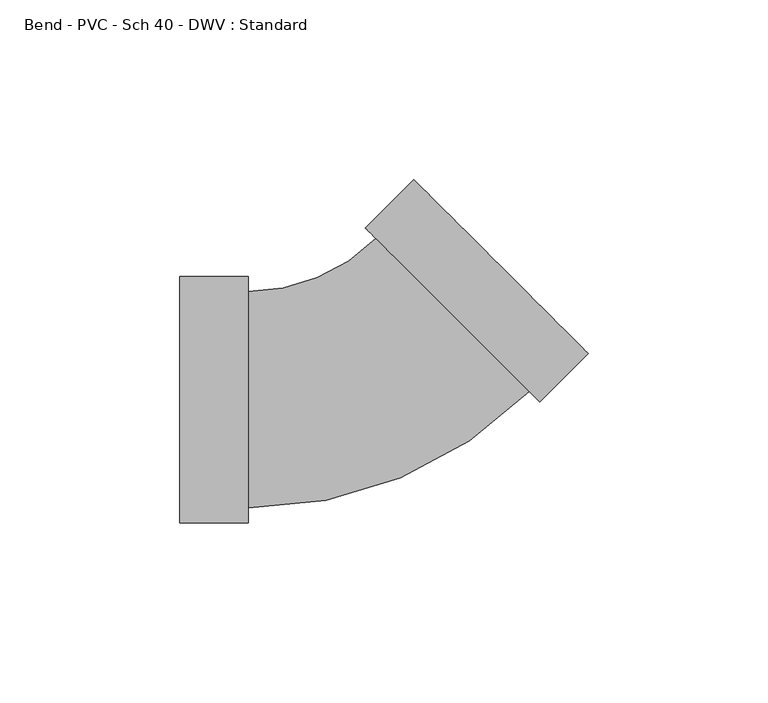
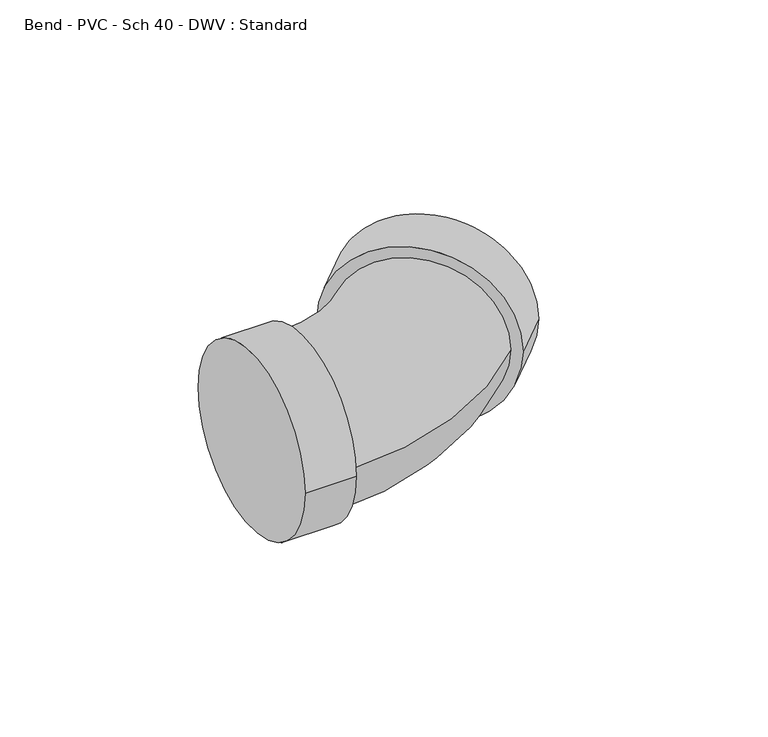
"""IFC4 building model written with IfcOpenShell, lengths in millimetres: pipe fitting geometry, Bend - PVC - Sch 40 - DWV : Standard."""

from ifc_helpers import new_model, si_unit, point, frame, origin, place, context, project, spatial, circle_curve, ellipse_curve, trimmed, source, transform, mapped, element, save
from ifc_brep_helpers import plane_surface, cylinder_surface, revolved_surface, advanced_brep


def bend_pvc_sch_40_dwv_standard_22595671(model_context):
    return source(origin(), model_context, "Body", "AdvancedBrep", [
        advanced_brep(
        [(-52.4002, -34.3154, 0.0), (-52.4002, 34.3154, 0.0), (-33.3502, -34.3154, 0.0), (-33.3502, 34.3154, 0.0), (-33.3502, -30.1625, 0.0), (-33.3502, 30.1625, 0.0), (2.2277791, 44.9115714, 0.0), (44.908935, 2.2803087, 0.0), (47.8471956, -0.6545172, 0.0), (-0.7104815, 47.8463973, 0.0), (61.3096996, 12.8237426, 0.0), (12.7520225, 61.324657, 0.0)],
        [
            (0, 1, circle_curve(frame((-52.4002, 0.0, 0.0), z_axis=(-1.0, 0.0, 0.0), x_axis=(0.0, 1.0, 0.0)), 34.3154)),
            (1, 0, circle_curve(frame((-52.4002, 0.0, 0.0), z_axis=(-1.0, 0.0, 0.0), x_axis=(0.0, 1.0, 0.0)), 34.3154)),
            (2, 3, circle_curve(frame((-33.3502, 0.0, 0.0), z_axis=(1.0, 0.0, 0.0), x_axis=(0.0, 1.0, 0.0)), 34.3154)),
            (3, 2, circle_curve(frame((-33.3502, 0.0, 0.0), z_axis=(1.0, 0.0, 0.0), x_axis=(0.0, 1.0, 0.0)), 34.3154)),
            (4, 5, circle_curve(frame((-33.3502, 0.0, 0.0), z_axis=(-1.0, 0.0, 0.0), x_axis=(0.0, 1.0, 0.0)), 30.1625)),
            (5, 4, circle_curve(frame((-33.3502, 0.0, 0.0), z_axis=(-1.0, 0.0, 0.0), x_axis=(0.0, 1.0, 0.0)), 30.1625)),
            (0, 2),
            (3, 1),
            (6, 5, circle_curve(frame((-33.3502, 80.4479607, 0.0), z_axis=(0.0, 0.0, -1.0), x_axis=(0.0, -1.0, 0.0)), 50.2854607)),
            (4, 7, circle_curve(frame((-33.3502, 80.4479607, 0.0), z_axis=(0.0, 0.0, 1.0), x_axis=(0.0, -1.0, 0.0)), 110.6104607)),
            (7, 6, circle_curve(frame((23.568357, 23.5959401, 0.0), z_axis=(-0.7066931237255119, -0.7075201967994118, 0.0), x_axis=(-0.7075201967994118, 0.7066931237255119, 0.0)), 30.1625)),
            (6, 7, circle_curve(frame((23.568357, 23.5959401, 0.0), z_axis=(-0.7066931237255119, -0.7075201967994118, 0.0), x_axis=(-0.7075201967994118, 0.7066931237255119, 0.0)), 30.1625)),
            (8, 9, circle_curve(frame((23.568357, 23.5959401, 0.0), z_axis=(-0.7066931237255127, -0.7075201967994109, 0.0), x_axis=(-0.7075201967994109, 0.7066931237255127, 0.0)), 34.3154)),
            (9, 8, circle_curve(frame((23.568357, 23.5959401, 0.0), z_axis=(-0.7066931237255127, -0.7075201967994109, 0.0), x_axis=(-0.7075201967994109, 0.7066931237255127, 0.0)), 34.3154)),
            (10, 11, circle_curve(frame((37.030861, 37.0741998, 0.0), z_axis=(0.7066931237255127, 0.7075201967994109, 0.0), x_axis=(-0.7075201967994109, 0.7066931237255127, 0.0)), 34.3154)),
            (11, 10, circle_curve(frame((37.030861, 37.0741998, 0.0), z_axis=(0.7066931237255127, 0.7075201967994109, 0.0), x_axis=(-0.7075201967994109, 0.7066931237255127, 0.0)), 34.3154)),
            (8, 10),
            (11, 9),
        ],
        [
            plane_surface(frame((-52.4002, 0.0, 0.0), z_axis=(-1.0, 0.0, 0.0), x_axis=(0.0, 0.0, 1.0))),
            plane_surface(frame((-33.3502, 0.0, 0.0), z_axis=(1.0, 0.0, 0.0), x_axis=(0.0, 0.0, 1.0))),
            cylinder_surface(frame((-52.4002, 0.0, 0.0), z_axis=(-1.0, 0.0, 0.0), x_axis=(0.0, 1.0, 0.0)), 34.3154),
            revolved_surface(trimmed(ellipse_curve(frame((-33.3502, 0.0, 0.0), z_axis=(-1.0, 0.0, 0.0), x_axis=(0.0, 1.0, 0.0)), 30.1625, 30.1625), [point((-33.3502, -30.1625, 0.0))], [point((-33.3502, 30.1625, 0.0))], True, "CARTESIAN"), (-33.3502, 80.4479607, 0.0), (0.0, 0.0, 1.0)),
            revolved_surface(trimmed(ellipse_curve(frame((-33.3502, 0.0, 0.0), z_axis=(-1.0, 0.0, 0.0), x_axis=(0.0, 1.0, 0.0)), 30.1625, 30.1625), [point((-33.3502, 30.1625, 0.0))], [point((-33.3502, -30.1625, 0.0))], True, "CARTESIAN"), (-33.3502, 80.4479607, 0.0), (0.0, 0.0, 1.0)),
            plane_surface(frame((23.568357, 23.5959401, 0.0), z_axis=(-0.7066931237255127, -0.7075201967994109, 0.0), x_axis=(0.0, 0.0, 1.0))),
            plane_surface(frame((37.030861, 37.0741998, 0.0), z_axis=(0.7066931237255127, 0.7075201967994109, 0.0), x_axis=(0.0, 0.0, 1.0))),
            cylinder_surface(frame((23.568357, 23.5959401, 0.0), z_axis=(-0.7066931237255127, -0.7075201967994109, 0.0), x_axis=(-0.7075201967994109, 0.7066931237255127, 0.0)), 34.3154),
        ],
        [
            (0, [[1, 2]]),
            (1, [[3, 4], [5, 6]]),
            (2, [[-1, 7, -4, 8]]),
            (2, [[-2, -8, -3, -7]]),
            (3, [[9, -5, 10, 11]]),
            (4, [[-9, 12, -10, -6]]),
            (5, [[13, 14], [-11, -12]]),
            (6, [[15, 16]]),
            (7, [[-13, 17, -16, 18]]),
            (7, [[-14, -18, -15, -17]]),
        ],
    ),
    ])


if __name__ == "__main__":
    model = new_model("IFC4")
    model_context = context("Model", 3, world=origin())
    ifc_project = project(units=[si_unit("LENGTHUNIT", "METRE", prefix="MILLI")], contexts=[model_context])
    site = spatial("IfcSite", under=ifc_project)
    building = spatial("IfcBuilding", under=site)
    placement = place(None, origin())
    bend_pvc_sch_40_dwv_standard_shape = bend_pvc_sch_40_dwv_standard_22595671(model_context)
    element("IfcPipeFitting", 1, ObjectType="Bend - PVC - Sch 40 - DWV : Standard", at=placement, inside=building, context=model_context, shape_type="MappedRepresentation", body=[
        mapped(bend_pvc_sch_40_dwv_standard_shape, transform((0.0, 0.0, 0.0), x_axis=(1.0, 0.0, 0.0), y_axis=(0.0, 1.0, 0.0), z_axis=(0.0, 0.0, 1.0))),
    ])
    save(model, "model.ifc")
